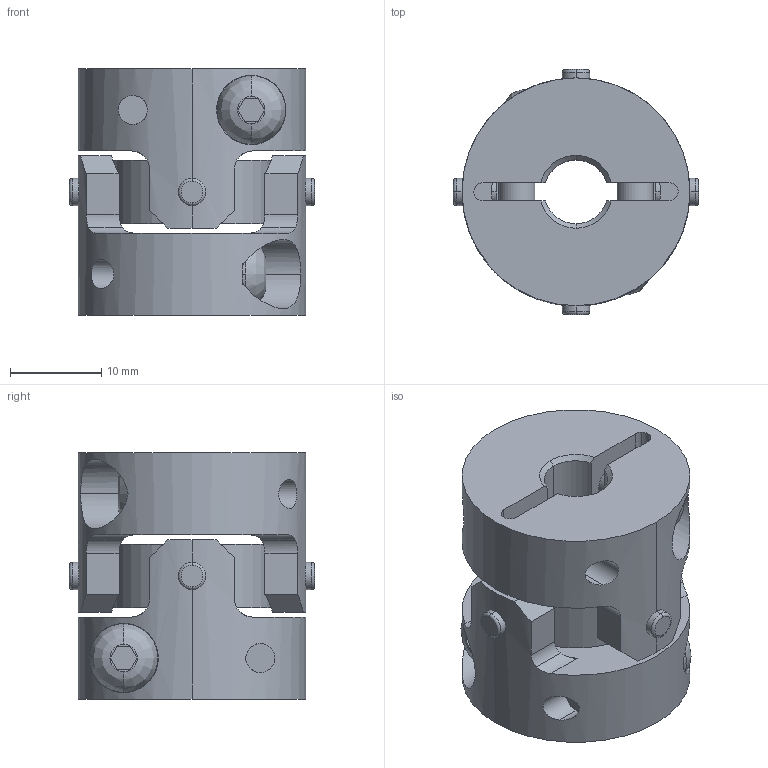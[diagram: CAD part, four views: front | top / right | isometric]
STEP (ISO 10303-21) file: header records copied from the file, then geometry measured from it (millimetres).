
FILE_DESCRIPTION((''),'2;1');
FILE_NAME('UA-25C-7×10.stp','2013-05-16T09:31:20',(''),(''),'AutoCAD STEP 2000i','AutoCAD 2000i',', , ');
FILE_SCHEMA(('CONFIG_CONTROL_DESIGN'));
Length unit declared in the file: millimetre
Products named in the file (7): UA-25C-5×9; 忣兜1; UA-2502-D09; BTN-M4; UA-2502-D05-1; UA-2502-D05; UA25-SEN
Assembly tree (8 placements, depth 3):
  UA-25C-5×9
    忣兜1
    UA-2502-D09
      BTN-M4
    UA-2502-D05-1
      BTN-M4
    UA-2502-D05
      BTN-M4
    UA25-SEN
Bounding box: 26.89 x 26.89 x 27 mm (x, y, z)
Volume: 8990 mm3; surface area: 6371.5 mm2
Topology: 1 solids, 1 shells, 208 faces, 562 edges, 368 vertices
Faces by surface type: cylinder 96, plane 80, cone 16, bspline 8, torus 8
Entity records: 8385 total; most frequent: CARTESIAN_POINT 2983, ORIENTED_EDGE 1124, DIRECTION 1084, EDGE_CURVE 562, AXIS2_PLACEMENT_3D 417, VERTEX_POINT 368, VECTOR 250, LINE 250
